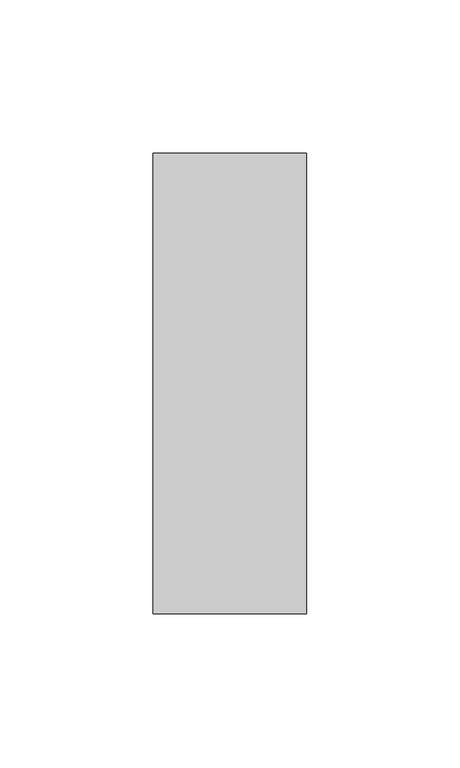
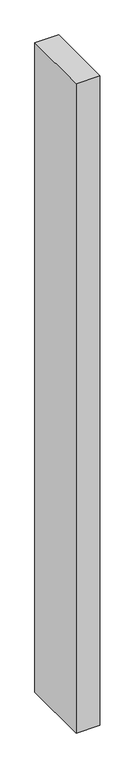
"""IFC4 building model written with IfcOpenShell, lengths in millimetres: member geometry, Прямоугольный импост : 50 x 150 мм."""

import ifcopenshell
import ifcopenshell.guid

model = None  # the IFC model being written
_history = None  # IfcOwnerHistory: only IFC2X3 demands one
_inside = {}  # id of a spatial element -> (the spatial element, [elements in it])
_under = {}  # id of a project, library or spatial element -> (it, [spatial elements below it])
_declared = {}  # id of a project -> (the project, [libraries it declares])
_typed = {}  # id of a type object -> (the type object, [elements of that type])
_made_of = {}  # id of a material, layer set ... -> (it, [elements and type objects made of it])


def new_model(schema):
    """Start an empty IFC model of exactly this schema.

    Asked for "IFC4X3", IfcOpenShell would pick the latest addendum, in which some entities
    have other attributes; the version numbers below select the first issue.
    IFC2X3 requires an IfcOwnerHistory on every rooted entity: one is made here for all.
    """
    global model, _history
    if schema == "IFC4X3":
        model = ifcopenshell.file(schema_version=(4, 3, 0, 0))
    else:
        model = ifcopenshell.file(schema=schema)
    _inside.clear()
    _under.clear()
    _declared.clear()
    _typed.clear()
    _made_of.clear()
    _history = None
    if model.schema == "IFC2X3":
        org = make("IfcOrganization", Name="unknown")
        user = make(
            "IfcPersonAndOrganization",
            ThePerson=make("IfcPerson", FamilyName="unknown"),
            TheOrganization=org,
        )
        app = make(
            "IfcApplication",
            ApplicationDeveloper=org,
            Version="unknown",
            ApplicationFullName="unknown",
            ApplicationIdentifier="unknown",
        )
        _history = make(
            "IfcOwnerHistory",
            OwningUser=user,
            OwningApplication=app,
            ChangeAction="ADDED",
            CreationDate=0,
        )
    return model


def make(cls, **values):
    """One entity of the class cls with the attributes given. An attribute that is None is left unset."""
    return model.create_entity(
        cls, **{name: value for name, value in values.items() if value is not None}
    )


def rooted(cls, **values):
    """An entity with a GlobalId (a new one), such as an element, a storey or a relation."""
    return make(cls, GlobalId=ifcopenshell.guid.new(), OwnerHistory=_history, **values)


def si_unit(unit_type, name, prefix=None):
    """IfcSIUnit, for example si_unit("LENGTHUNIT", "METRE", prefix="MILLI")."""
    return make("IfcSIUnit", UnitType=unit_type, Prefix=prefix, Name=name)


def assignment(units):
    """IfcUnitAssignment: the units of a project."""
    return None if units is None else make("IfcUnitAssignment", Units=units)


def point(xyz):
    """IfcCartesianPoint."""
    return None if xyz is None else make("IfcCartesianPoint", Coordinates=xyz)


def direction(xyz):
    """IfcDirection."""
    return None if xyz is None else make("IfcDirection", DirectionRatios=xyz)


def frame(location, z_axis=None, x_axis=None):
    """IfcAxis2Placement3D, a coordinate frame: its origin and axes. An axis left out is left unset."""
    return make(
        "IfcAxis2Placement3D",
        Location=point(location),
        Axis=direction(z_axis),
        RefDirection=direction(x_axis),
    )


def origin():
    """The frame at (0, 0, 0) with its axes left unset."""
    return frame((0.0, 0.0, 0.0))


def place(relative_to, where):
    """IfcLocalPlacement: puts the frame where relative to a parent placement (None: the world)."""
    return make(
        "IfcLocalPlacement", PlacementRelTo=relative_to, RelativePlacement=where
    )


def context(
    kind, dimensions, precision=None, world=None, true_north=None, identifier=None
):
    """IfcGeometricRepresentationContext, for example the 3D "Model" context."""
    return make(
        "IfcGeometricRepresentationContext",
        ContextIdentifier=identifier,
        ContextType=kind,
        CoordinateSpaceDimension=dimensions,
        Precision=precision,
        WorldCoordinateSystem=world,
        TrueNorth=true_north,
    )


def project(units=None, contexts=None):
    """IfcProject with its units and contexts."""
    return rooted(
        "IfcProject",
        Name="project",
        RepresentationContexts=contexts,
        UnitsInContext=assignment(units),
    )


def spatial(cls, under=None, at=None, **own):
    """A site, building, storey or space (cls), placed at a placement, below another one or the project."""
    s = rooted(cls, ObjectPlacement=at, **own)
    if under is not None:
        _under.setdefault(under.id(), (under, []))[1].append(s)
    return s


def polyline(points):
    """IfcPolyline through the points."""
    return make("IfcPolyline", Points=[point(p) for p in points])


def outline(outer, holes=None, kind="AREA"):
    """IfcArbitraryClosedProfileDef: a profile drawn as a closed curve; with holes, ...WithVoids."""
    if holes is None:
        return make("IfcArbitraryClosedProfileDef", ProfileType=kind, OuterCurve=outer)
    return make(
        "IfcArbitraryProfileDefWithVoids",
        ProfileType=kind,
        OuterCurve=outer,
        InnerCurves=holes,
    )


def extrude(swept, where, along, depth):
    """IfcExtrudedAreaSolid: the profile swept, set in the frame where, extruded along a direction by depth."""
    return make(
        "IfcExtrudedAreaSolid",
        SweptArea=swept,
        Position=where,
        ExtrudedDirection=direction(along),
        Depth=depth,
    )


def shape(context_of_items, identifier, shape_type, items):
    """IfcShapeRepresentation: the items that make up one representation, for example the "Body"."""
    return make(
        "IfcShapeRepresentation",
        ContextOfItems=context_of_items,
        RepresentationIdentifier=identifier,
        RepresentationType=shape_type,
        Items=items,
    )


def source(mapping_origin, context_of_items, identifier, shape_type, items):
    """IfcRepresentationMap: a shape defined once, which mapped items show again and again."""
    return make(
        "IfcRepresentationMap",
        MappingOrigin=mapping_origin,
        MappedRepresentation=shape(context_of_items, identifier, shape_type, items),
    )


def transform(
    local_origin,
    x_axis=None,
    y_axis=None,
    z_axis=None,
    scale=None,
    scale2=None,
    scale3=None,
    uniform=True,
):
    """IfcCartesianTransformationOperator3D, or its non-uniform kind. x_axis, y_axis, z_axis: its Axis1, 2, 3."""
    if uniform:
        return make(
            "IfcCartesianTransformationOperator3D",
            Axis1=direction(x_axis),
            Axis2=direction(y_axis),
            LocalOrigin=point(local_origin),
            Scale=scale,
            Axis3=direction(z_axis),
        )
    return make(
        "IfcCartesianTransformationOperator3DnonUniform",
        Axis1=direction(x_axis),
        Axis2=direction(y_axis),
        LocalOrigin=point(local_origin),
        Scale=scale,
        Axis3=direction(z_axis),
        Scale2=scale2,
        Scale3=scale3,
    )


def mapped(mapping_source, mapping_target):
    """IfcMappedItem: shows the shape of a source again, moved by a transform."""
    return make(
        "IfcMappedItem", MappingSource=mapping_source, MappingTarget=mapping_target
    )


def made_of(thing, what):
    """Note that an element or type object is made of a material, layer set ...; save() writes the relation."""
    if what is not None:
        _made_of.setdefault(what.id(), (what, []))[1].append(thing)
    return thing


def element(
    cls,
    number,
    at=None,
    inside=None,
    cuts=None,
    type_object=None,
    material=None,
    context=None,
    identifier="Body",
    shape_type=None,
    held_by="IfcProductDefinitionShape",
    body=None,
    shapes=None,
    **own,
):
    """One element of the class cls, such as IfcWall. Its Tag is "e" and its number.

    at: its placement. inside: the storey or other place that contains it. cuts: it is an
    opening in that element (IfcRelVoidsElement). A single representation is given by context,
    identifier, shape_type and body (its items); several are given by shapes. held_by: the class
    of the entity that holds the representations. save() writes the other relations.
    """
    e = rooted(cls, Tag="e%d" % number, ObjectPlacement=at, **own)
    if body is not None:
        shapes = [shape(context, identifier, shape_type, body)]
    if shapes is not None:
        e.Representation = make(held_by, Representations=shapes)
    if inside is not None:
        _inside.setdefault(inside.id(), (inside, []))[1].append(e)
    if cuts is not None:
        rooted(
            "IfcRelVoidsElement", RelatingBuildingElement=cuts, RelatedOpeningElement=e
        )
    if type_object is not None:
        _typed.setdefault(type_object.id(), (type_object, []))[1].append(e)
    return made_of(e, material)


def aggregate(whole, parts):
    """IfcRelAggregates: a whole, such as a stair, and the parts it consists of."""
    return rooted("IfcRelAggregates", RelatingObject=whole, RelatedObjects=parts)


def save(model, path):
    """Write the relations noted so far, then the file.

    IfcRelAggregates (storeys below a building ...), IfcRelContainedInSpatialStructure (elements
    in a storey), IfcRelDefinesByType, IfcRelAssociatesMaterial and IfcRelDeclares: one each for
    every whole, place, type object, material and project.
    """
    for whole, parts in _under.values():
        aggregate(whole, parts)
    for where, things in _inside.values():
        rooted(
            "IfcRelContainedInSpatialStructure",
            RelatedElements=things,
            RelatingStructure=where,
        )
    for kind, things in _typed.values():
        rooted("IfcRelDefinesByType", RelatedObjects=things, RelatingType=kind)
    for what, things in _made_of.values():
        rooted("IfcRelAssociatesMaterial", RelatedObjects=things, RelatingMaterial=what)
    for by, libraries in _declared.values():
        rooted("IfcRelDeclares", RelatingContext=by, RelatedDefinitions=libraries)
    model.write(path)


def member_21482451(model_context):
    return source(origin(), model_context, "Body", "SweptSolid", [
        extrude(outline(polyline([(25.0, 75.0), (25.0, -75.0), (-25.0, -75.0), (-25.0, 75.0), (25.0, 75.0)])), frame((0.0, 0.0, -1446.0793222), z_axis=(0.0, 0.0, 1.0), x_axis=(1.0, 0.0, 0.0)), (0.0, 0.0, 1.0), 1446.0793222),
    ])


if __name__ == "__main__":
    model = new_model("IFC4")
    model_context = context("Model", 3, world=origin())
    ifc_project = project(units=[si_unit("LENGTHUNIT", "METRE", prefix="MILLI")], contexts=[model_context])
    site = spatial("IfcSite", under=ifc_project)
    building = spatial("IfcBuilding", under=site)
    placement = place(None, origin())
    member_shape = member_21482451(model_context)
    element("IfcMember", 1, ObjectType="Прямоугольный импост : 50 x 150 мм", at=placement, inside=building, context=model_context, shape_type="MappedRepresentation", body=[
        mapped(member_shape, transform((0.0, 0.0, 0.0), x_axis=(1.0, 0.0, 0.0), y_axis=(0.0, 1.0, 0.0), z_axis=(0.0, 0.0, 1.0))),
    ])
    save(model, "model.ifc")
